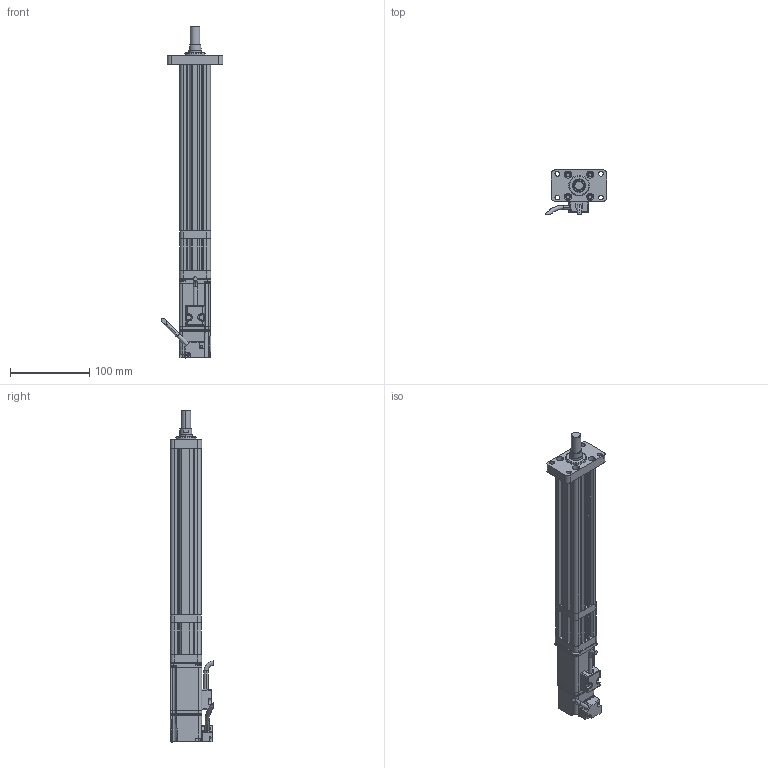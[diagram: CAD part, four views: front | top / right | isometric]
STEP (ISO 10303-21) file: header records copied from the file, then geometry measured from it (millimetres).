
FILE_DESCRIPTION (( 'STEP AP214' ), '1' );
FILE_NAME ('039-S150-D02-A-M3-C1-2.STEP', '2021-03-02T05:25:26', ( '' ), ( '' ), 'SwSTEP 2.0', 'SolidWorks 2018', '' );
FILE_SCHEMA (( 'AUTOMOTIVE_DESIGN' ));
Length unit declared in the file: millimetre
Products named in the file (8): CMC039-GT; 039-S150-D02-A-M3-C1-2; ECMA-CX0401ES-40框號系列機種-100W低慣量系列; CMC039-DJZ; CMC039-AZB; CMC039-DT; CMC039-ZLLJB; CMC039-FL1
Assembly tree (7 placements, depth 2):
  039-S150-D02-A-M3-C1-2
    CMC039-GT
    CMC039-DT
    CMC039-ZLLJB
    CMC039-DJZ
    ECMA-CX0401ES-40框號系列機種-100W低慣量系列
    CMC039-AZB
    CMC039-FL1
Bounding box: 77.84 x 55.39 x 419.6 mm (x, y, z)
Volume: 443193.9 mm3; surface area: 135865.9 mm2
Topology: 7 solids, 15 shells, 716 faces, 1884 edges, 1183 vertices
Faces by surface type: cylinder 298, plane 293, bspline 84, cone 41
Entity records: 28264 total; most frequent: CARTESIAN_POINT 11275, ORIENTED_EDGE 3702, DIRECTION 3045, EDGE_CURVE 1851, VERTEX_POINT 1183, AXIS2_PLACEMENT_3D 1040, VECTOR 965, LINE 965
